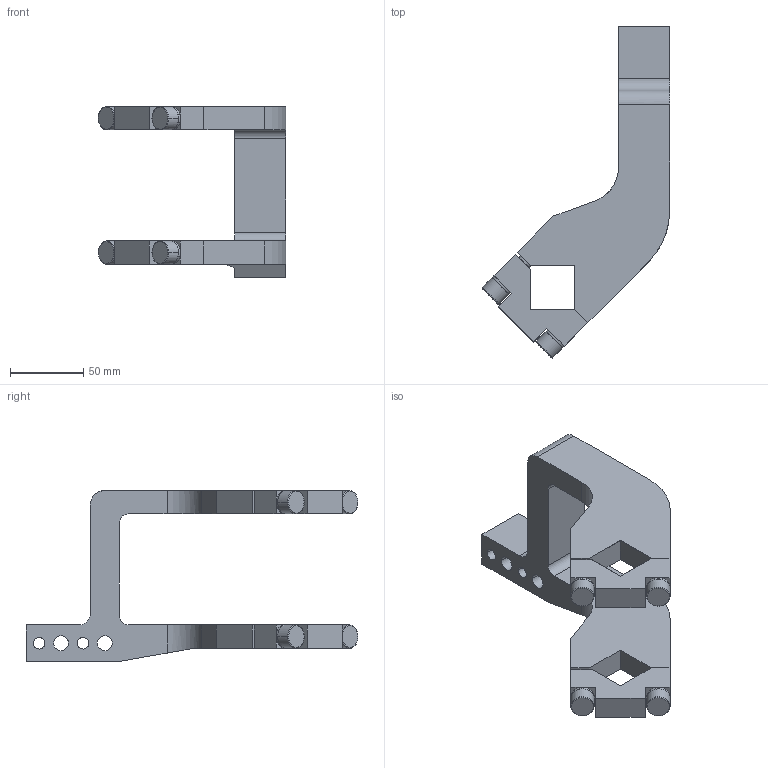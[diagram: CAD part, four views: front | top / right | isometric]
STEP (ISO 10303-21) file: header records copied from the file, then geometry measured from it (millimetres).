
FILE_DESCRIPTION(('CATIA V5 STEP Exchange'),'2;1');
FILE_NAME('E:\clampact\CLAMPACT\clampact\catalog\Clampact Arm\Arm 3D\Clampact Arm\arm_K80_45_A44_Clampact.stp','2022-12-07T04:52:49+00:00',('none'),('none'),'CATIA Version 5 Release 19 SP 6 (IN-10)','CATIA V5 STEP AP203','none');
FILE_SCHEMA(('CONFIG_CONTROL_DESIGN'));
Length unit declared in the file: millimetre
Products named in the file (1): K80_45_A44_Clampact_柯莱普
Bounding box: 128.32 x 227.32 x 117 mm (x, y, z)
Volume: 392587.8 mm3; surface area: 77284.5 mm2
Topology: 1 solids, 5 shells, 160 faces, 412 edges, 256 vertices
Faces by surface type: plane 80, cylinder 48, cone 20, torus 12
Entity records: 5320 total; most frequent: CARTESIAN_POINT 1573, ORIENTED_EDGE 808, DIRECTION 655, EDGE_CURVE 404, VERTEX_POINT 256, AXIS2_PLACEMENT_3D 255, VECTOR 241, LINE 241
